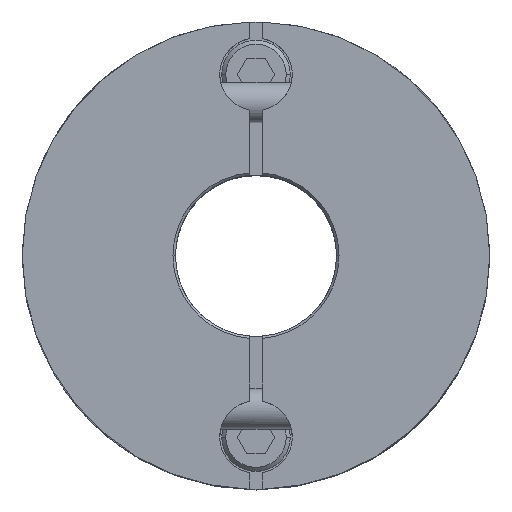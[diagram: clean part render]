
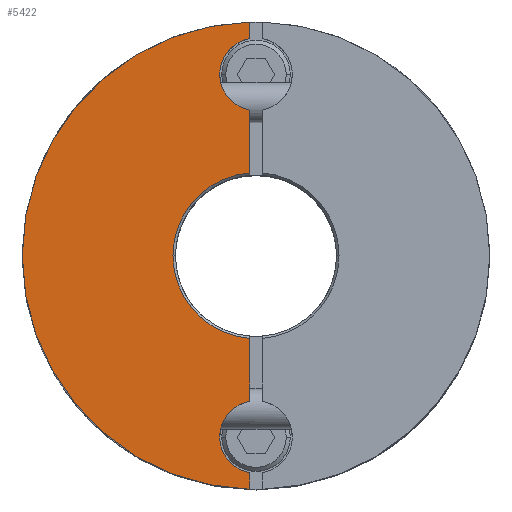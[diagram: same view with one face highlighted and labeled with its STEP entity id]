
A CAD part, top view. The second image highlights one B-rep face of the part: STEP entity #5422.
In plain terms, the highlighted planar face has unit normal (0, 0, 1).
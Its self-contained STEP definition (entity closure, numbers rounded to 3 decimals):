
#2070=CARTESIAN_POINT('',(-29.0,0.,22.4));
#2071=VERTEX_POINT('',#2070);
#2155=CARTESIAN_POINT('',(-0.75,-28.99,22.4));
#2156=VERTEX_POINT('',#2155);
#2163=CARTESIAN_POINT('',(0.0,0.,22.4));
#2164=DIRECTION('',(0.0,0.0,-1.0));
#2165=DIRECTION('',(-1.0,0.0,0.0));
#2166=AXIS2_PLACEMENT_3D('',#2163,#2164,#2165);
#2167=CIRCLE('',#2166,29.0);
#2168=EDGE_CURVE('',#2156,#2071,#2167,.T.);
#2482=CARTESIAN_POINT('',(-10.3,0.,22.4));
#2483=VERTEX_POINT('',#2482);
#2490=CARTESIAN_POINT('',(-0.75,-10.273,22.4));
#2491=VERTEX_POINT('',#2490);
#2492=CARTESIAN_POINT('',(0.0,0.,22.4));
#2493=DIRECTION('',(0.0,0.0,1.0));
#2494=DIRECTION('',(1.0,0.0,0.0));
#2495=AXIS2_PLACEMENT_3D('',#2492,#2493,#2494);
#2496=CIRCLE('',#2495,10.3);
#2497=EDGE_CURVE('',#2483,#2491,#2496,.T.);
#2828=CARTESIAN_POINT('',(-4.5,-22.5,22.4));
#2829=VERTEX_POINT('',#2828);
#2838=CARTESIAN_POINT('',(-0.75,-26.937,22.4));
#2839=VERTEX_POINT('',#2838);
#2840=CARTESIAN_POINT('',(0.,-22.5,22.4));
#2841=DIRECTION('',(0.0,0.0,-1.0));
#2842=DIRECTION('',(-1.0,0.0,0.0));
#2843=AXIS2_PLACEMENT_3D('',#2840,#2841,#2842);
#2844=CIRCLE('',#2843,4.5);
#2845=EDGE_CURVE('',#2839,#2829,#2844,.T.);
#3131=CARTESIAN_POINT('',(-4.5,22.5,22.4));
#3132=VERTEX_POINT('',#3131);
#3141=CARTESIAN_POINT('',(-0.75,18.063,22.4));
#3142=VERTEX_POINT('',#3141);
#3143=CARTESIAN_POINT('',(0.,22.5,22.4));
#3144=DIRECTION('',(0.0,0.0,-1.0));
#3145=DIRECTION('',(-1.0,0.0,0.0));
#3146=AXIS2_PLACEMENT_3D('',#3143,#3144,#3145);
#3147=CIRCLE('',#3146,4.5);
#3148=EDGE_CURVE('',#3142,#3132,#3147,.T.);
#4221=CARTESIAN_POINT('',(-0.75,26.937,22.4));
#4222=VERTEX_POINT('',#4221);
#4229=CARTESIAN_POINT('',(0.,22.5,22.4));
#4230=DIRECTION('',(0.0,0.0,-1.0));
#4231=DIRECTION('',(-1.0,0.0,0.0));
#4232=AXIS2_PLACEMENT_3D('',#4229,#4230,#4231);
#4233=CIRCLE('',#4232,4.5);
#4234=EDGE_CURVE('',#3132,#4222,#4233,.T.);
#4566=CARTESIAN_POINT('',(-0.75,-18.063,22.4));
#4567=VERTEX_POINT('',#4566);
#4574=CARTESIAN_POINT('',(0.,-22.5,22.4));
#4575=DIRECTION('',(0.0,0.0,-1.0));
#4576=DIRECTION('',(-1.0,0.0,0.0));
#4577=AXIS2_PLACEMENT_3D('',#4574,#4575,#4576);
#4578=CIRCLE('',#4577,4.5);
#4579=EDGE_CURVE('',#2829,#4567,#4578,.T.);
#4763=CARTESIAN_POINT('',(-0.75,-18.063,22.4));
#4764=DIRECTION('',(0.0,1.0,0.0));
#4765=VECTOR('',#4764,7.79);
#4766=LINE('',#4763,#4765);
#4767=EDGE_CURVE('',#4567,#2491,#4766,.T.);
#4830=CARTESIAN_POINT('',(-0.75,10.273,22.4));
#4831=VERTEX_POINT('',#4830);
#4832=CARTESIAN_POINT('',(-0.75,10.273,22.4));
#4833=DIRECTION('',(0.0,1.0,0.0));
#4834=VECTOR('',#4833,7.79);
#4835=LINE('',#4832,#4834);
#4836=EDGE_CURVE('',#4831,#3142,#4835,.T.);
#5301=CARTESIAN_POINT('',(-0.75,28.99,22.4));
#5302=VERTEX_POINT('',#5301);
#5309=CARTESIAN_POINT('',(-0.75,26.937,22.4));
#5310=DIRECTION('',(0.0,1.0,0.0));
#5311=VECTOR('',#5310,2.053);
#5312=LINE('',#5309,#5311);
#5313=EDGE_CURVE('',#4222,#5302,#5312,.T.);
#5386=CARTESIAN_POINT('',(-2.636,0.,22.4));
#5387=DIRECTION('',(0.0,0.0,1.0));
#5388=DIRECTION('',(-1.0,0.0,0.0));
#5389=AXIS2_PLACEMENT_3D('',#5386,#5387,#5388);
#5390=PLANE('',#5389);
#5391=ORIENTED_EDGE('',*,*,#3148,.T.);
#5392=ORIENTED_EDGE('',*,*,#4234,.T.);
#5393=ORIENTED_EDGE('',*,*,#5313,.T.);
#5394=CARTESIAN_POINT('',(0.0,0.,22.4));
#5395=DIRECTION('',(0.0,0.0,-1.0));
#5396=DIRECTION('',(-1.0,0.0,0.0));
#5397=AXIS2_PLACEMENT_3D('',#5394,#5395,#5396);
#5398=CIRCLE('',#5397,29.0);
#5399=EDGE_CURVE('',#2071,#5302,#5398,.T.);
#5400=ORIENTED_EDGE('',*,*,#5399,.F.);
#5401=ORIENTED_EDGE('',*,*,#2168,.F.);
#5402=CARTESIAN_POINT('',(-0.75,-28.99,22.4));
#5403=DIRECTION('',(0.0,1.0,0.0));
#5404=VECTOR('',#5403,2.053);
#5405=LINE('',#5402,#5404);
#5406=EDGE_CURVE('',#2156,#2839,#5405,.T.);
#5407=ORIENTED_EDGE('',*,*,#5406,.T.);
#5408=ORIENTED_EDGE('',*,*,#2845,.T.);
#5409=ORIENTED_EDGE('',*,*,#4579,.T.);
#5410=ORIENTED_EDGE('',*,*,#4767,.T.);
#5411=ORIENTED_EDGE('',*,*,#2497,.F.);
#5412=CARTESIAN_POINT('',(0.0,0.,22.4));
#5413=DIRECTION('',(0.0,0.0,1.0));
#5414=DIRECTION('',(1.0,0.0,0.0));
#5415=AXIS2_PLACEMENT_3D('',#5412,#5413,#5414);
#5416=CIRCLE('',#5415,10.3);
#5417=EDGE_CURVE('',#4831,#2483,#5416,.T.);
#5418=ORIENTED_EDGE('',*,*,#5417,.F.);
#5419=ORIENTED_EDGE('',*,*,#4836,.T.);
#5420=EDGE_LOOP('',(#5391,#5392,#5393,#5400,#5401,#5407,#5408,#5409,#5410,#5411,#5418,#5419));
#5421=FACE_OUTER_BOUND('',#5420,.T.);
#5422=ADVANCED_FACE('',(#5421),#5390,.T.);
